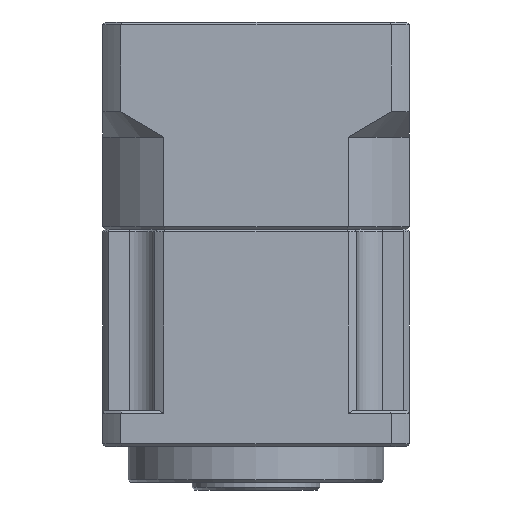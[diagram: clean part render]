
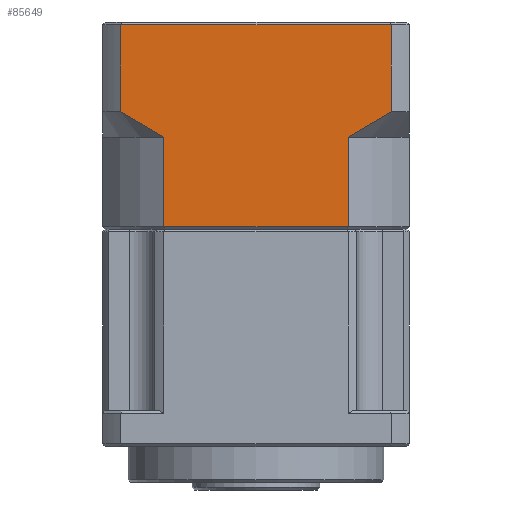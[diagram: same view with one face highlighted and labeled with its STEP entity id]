
A CAD part, front view. The second image highlights one B-rep face of the part: STEP entity #85649.
In plain terms, the highlighted planar face has unit normal (0, -1, 0).
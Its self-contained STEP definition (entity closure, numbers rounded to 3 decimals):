
#470 = CARTESIAN_POINT ( 'NONE',  ( -46.86, -2.224, -8.678 ) ) ;
#702 = B_SPLINE_CURVE_WITH_KNOTS ( 'NONE', 3,
 ( #470, #13948, #29106, #49913, #13651, #71271 ),
 .UNSPECIFIED., .F., .F.,
 ( 4, 2, 4 ),
 ( 0., 0.005, 0.01 ),
 .UNSPECIFIED. ) ;
#825 = VECTOR ( 'NONE', #17625, 1000. ) ;
#840 = CARTESIAN_POINT ( 'NONE',  ( -7.925, -2.224, -7.129 ) ) ;
#1328 = VECTOR ( 'NONE', #28284, 1000. ) ;
#2811 = CARTESIAN_POINT ( 'NONE',  ( -10.805, -2.224, -26.178 ) ) ;
#4029 = ORIENTED_EDGE ( 'NONE', *, *, #68807, .F. ) ;
#7667 = FACE_OUTER_BOUND ( 'NONE', #30242, .T. ) ;
#7725 = ORIENTED_EDGE ( 'NONE', *, *, #9892, .F. ) ;
#8389 = LINE ( 'NONE', #24577, #36602 ) ;
#8462 = CARTESIAN_POINT ( 'NONE',  ( -55.29, -2.224, -45.904 ) ) ;
#8672 = LINE ( 'NONE', #46669, #825 ) ;
#9334 = LINE ( 'NONE', #66504, #37554 ) ;
#9892 = EDGE_CURVE ( 'NONE', #81137, #93468, #8672, .T. ) ;
#11683 = VERTEX_POINT ( 'NONE', #87266 ) ;
#13651 = CARTESIAN_POINT ( 'NONE',  ( -53.926, -2.224, -4.58 ) ) ;
#13948 = CARTESIAN_POINT ( 'NONE',  ( -48.315, -2.224, -7.928 ) ) ;
#15493 = CARTESIAN_POINT ( 'NONE',  ( 1.167, -2.224, 13.322 ) ) ;
#16184 = ORIENTED_EDGE ( 'NONE', *, *, #23695, .F. ) ;
#17625 = DIRECTION ( 'NONE',  ( 0., 0., 1. ) ) ;
#19099 = LINE ( 'NONE', #8462, #43878 ) ;
#19869 = EDGE_CURVE ( 'NONE', #11683, #89276, #84952, .T. ) ;
#23206 = CARTESIAN_POINT ( 'NONE',  ( -46.86, -2.224, -26.178 ) ) ;
#23695 = EDGE_CURVE ( 'NONE', #49919, #49161, #19099, .T. ) ;
#23730 = CARTESIAN_POINT ( 'NONE',  ( -10.805, -2.224, -8.678 ) ) ;
#24577 = CARTESIAN_POINT ( 'NONE',  ( -2.375, -2.224, -45.904 ) ) ;
#27657 = CARTESIAN_POINT ( 'NONE',  ( -55.29, -2.224, -3.678 ) ) ;
#28284 = DIRECTION ( 'NONE',  ( -1., 0., 0. ) ) ;
#29106 = CARTESIAN_POINT ( 'NONE',  ( -49.74, -2.224, -7.129 ) ) ;
#29410 = DIRECTION ( 'NONE',  ( 1., 0., 0. ) ) ;
#30242 = EDGE_LOOP ( 'NONE', ( #81907, #4029, #16184, #43084, #7725, #53358, #75799, #35360 ) ) ;
#34221 = CARTESIAN_POINT ( 'NONE',  ( -2.375, -2.224, 13.322 ) ) ;
#35360 = ORIENTED_EDGE ( 'NONE', *, *, #19869, .F. ) ;
#36602 = VECTOR ( 'NONE', #60719, 1000. ) ;
#37045 = CARTESIAN_POINT ( 'NONE',  ( -3.739, -2.224, -4.58 ) ) ;
#37323 = CARTESIAN_POINT ( 'NONE',  ( 1.167, -2.224, -26.678 ) ) ;
#37554 = VECTOR ( 'NONE', #44861, 1000. ) ;
#43084 = ORIENTED_EDGE ( 'NONE', *, *, #92757, .F. ) ;
#43878 = VECTOR ( 'NONE', #81184, 1000. ) ;
#44861 = DIRECTION ( 'NONE',  ( 0., 0., -1. ) ) ;
#45471 = VERTEX_POINT ( 'NONE', #34221 ) ;
#46011 = CARTESIAN_POINT ( 'NONE',  ( -46.86, -2.224, -8.678 ) ) ;
#46669 = CARTESIAN_POINT ( 'NONE',  ( -46.86, -2.224, -45.904 ) ) ;
#49107 = CARTESIAN_POINT ( 'NONE',  ( 1.167, -2.224, -26.178 ) ) ;
#49161 = VERTEX_POINT ( 'NONE', #55874 ) ;
#49913 = CARTESIAN_POINT ( 'NONE',  ( -52.545, -2.224, -5.454 ) ) ;
#49919 = VERTEX_POINT ( 'NONE', #27657 ) ;
#51202 = CARTESIAN_POINT ( 'NONE',  ( -9.35, -2.224, -7.928 ) ) ;
#53358 = ORIENTED_EDGE ( 'NONE', *, *, #75372, .F. ) ;
#55874 = CARTESIAN_POINT ( 'NONE',  ( -55.29, -2.224, 13.322 ) ) ;
#59622 = DIRECTION ( 'NONE',  ( 0., 0., -1. ) ) ;
#60719 = DIRECTION ( 'NONE',  ( 0., 0., -1. ) ) ;
#65881 = VECTOR ( 'NONE', #29410, 1000. ) ;
#66504 = CARTESIAN_POINT ( 'NONE',  ( -10.805, -2.224, -45.904 ) ) ;
#66614 = LINE ( 'NONE', #49107, #1328 ) ;
#68807 = EDGE_CURVE ( 'NONE', #49161, #45471, #84006, .T. ) ;
#71271 = CARTESIAN_POINT ( 'NONE',  ( -55.29, -2.224, -3.678 ) ) ;
#71863 = EDGE_CURVE ( 'NONE', #89276, #77339, #9334, .T. ) ;
#73776 = DIRECTION ( 'NONE',  ( 0., -1., 0. ) ) ;
#75372 = EDGE_CURVE ( 'NONE', #77339, #81137, #66614, .T. ) ;
#75799 = ORIENTED_EDGE ( 'NONE', *, *, #71863, .F. ) ;
#77339 = VERTEX_POINT ( 'NONE', #2811 ) ;
#79196 = CARTESIAN_POINT ( 'NONE',  ( -2.375, -2.224, -3.678 ) ) ;
#80415 = PLANE ( 'NONE',  #81915 ) ;
#81137 = VERTEX_POINT ( 'NONE', #23206 ) ;
#81184 = DIRECTION ( 'NONE',  ( 0., 0., 1. ) ) ;
#81907 = ORIENTED_EDGE ( 'NONE', *, *, #89928, .F. ) ;
#81915 = AXIS2_PLACEMENT_3D ( 'NONE', #37323, #73776, #59622 ) ;
#84006 = LINE ( 'NONE', #15493, #65881 ) ;
#84952 = B_SPLINE_CURVE_WITH_KNOTS ( 'NONE', 3,
 ( #79196, #37045, #87437, #840, #51202, #93435 ),
 .UNSPECIFIED., .F., .F.,
 ( 4, 2, 4 ),
 ( 0., 0.005, 0.01 ),
 .UNSPECIFIED. ) ;
#85649 = ADVANCED_FACE ( 'NONE', ( #7667 ), #80415, .T. ) ;
#87266 = CARTESIAN_POINT ( 'NONE',  ( -2.375, -2.224, -3.678 ) ) ;
#87437 = CARTESIAN_POINT ( 'NONE',  ( -5.12, -2.224, -5.454 ) ) ;
#89276 = VERTEX_POINT ( 'NONE', #23730 ) ;
#89928 = EDGE_CURVE ( 'NONE', #45471, #11683, #8389, .T. ) ;
#92757 = EDGE_CURVE ( 'NONE', #93468, #49919, #702, .T. ) ;
#93435 = CARTESIAN_POINT ( 'NONE',  ( -10.805, -2.224, -8.678 ) ) ;
#93468 = VERTEX_POINT ( 'NONE', #46011 ) ;
